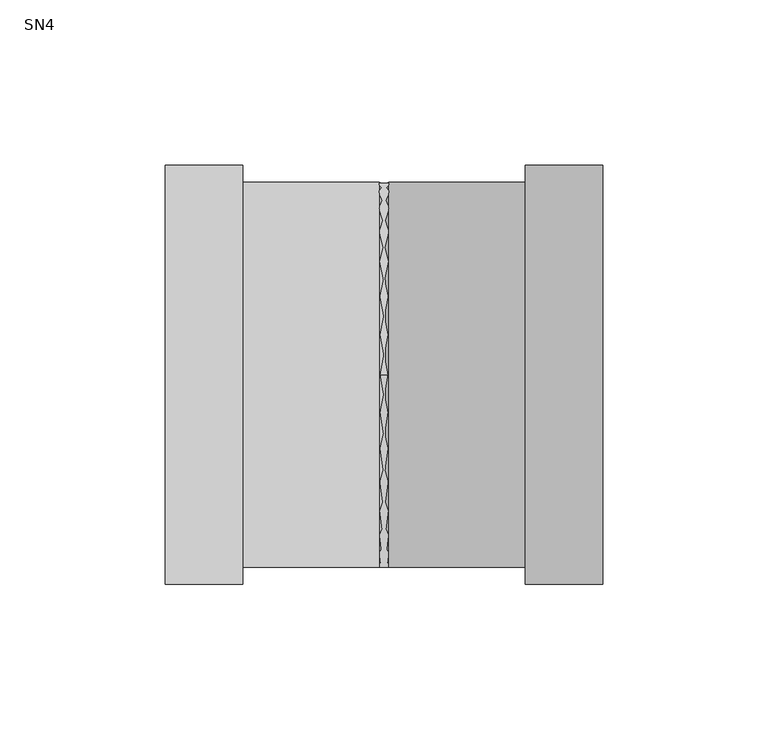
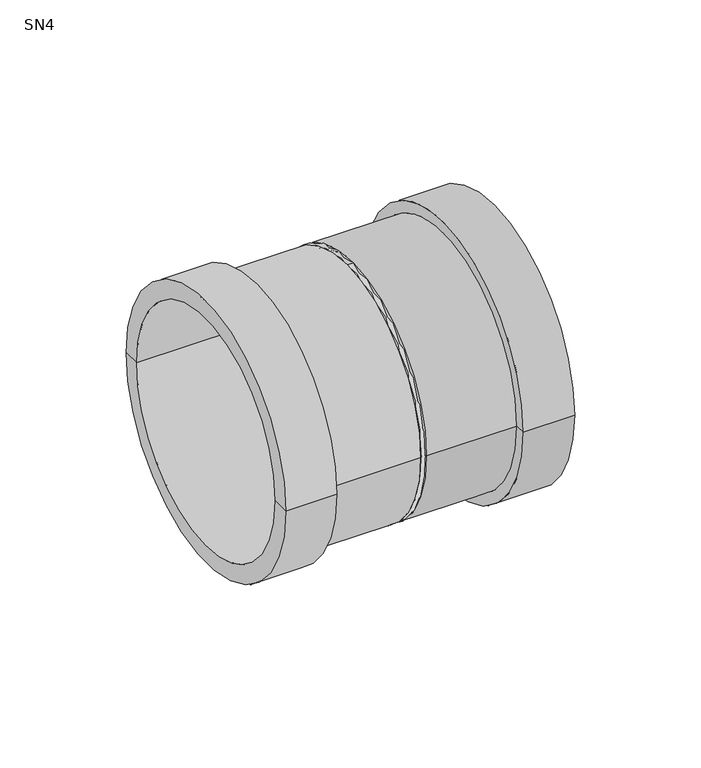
"""IFC4 building model written with IfcOpenShell, lengths in millimetres: pipe fitting geometry, NLRS-90-PIF_Z_DO_NOT_USE_Wavin PVC Buitenriolering Steekmof (Nested) : SN4."""

import ifcopenshell
import ifcopenshell.guid

model = None  # the IFC model being written
_history = None  # IfcOwnerHistory: only IFC2X3 demands one
_inside = {}  # id of a spatial element -> (the spatial element, [elements in it])
_under = {}  # id of a project, library or spatial element -> (it, [spatial elements below it])
_declared = {}  # id of a project -> (the project, [libraries it declares])
_typed = {}  # id of a type object -> (the type object, [elements of that type])
_made_of = {}  # id of a material, layer set ... -> (it, [elements and type objects made of it])


def new_model(schema):
    """Start an empty IFC model of exactly this schema.

    Asked for "IFC4X3", IfcOpenShell would pick the latest addendum, in which some entities
    have other attributes; the version numbers below select the first issue.
    IFC2X3 requires an IfcOwnerHistory on every rooted entity: one is made here for all.
    """
    global model, _history
    if schema == "IFC4X3":
        model = ifcopenshell.file(schema_version=(4, 3, 0, 0))
    else:
        model = ifcopenshell.file(schema=schema)
    _inside.clear()
    _under.clear()
    _declared.clear()
    _typed.clear()
    _made_of.clear()
    _history = None
    if model.schema == "IFC2X3":
        org = make("IfcOrganization", Name="unknown")
        user = make(
            "IfcPersonAndOrganization",
            ThePerson=make("IfcPerson", FamilyName="unknown"),
            TheOrganization=org,
        )
        app = make(
            "IfcApplication",
            ApplicationDeveloper=org,
            Version="unknown",
            ApplicationFullName="unknown",
            ApplicationIdentifier="unknown",
        )
        _history = make(
            "IfcOwnerHistory",
            OwningUser=user,
            OwningApplication=app,
            ChangeAction="ADDED",
            CreationDate=0,
        )
    return model


def make(cls, **values):
    """One entity of the class cls with the attributes given. An attribute that is None is left unset."""
    return model.create_entity(
        cls, **{name: value for name, value in values.items() if value is not None}
    )


def rooted(cls, **values):
    """An entity with a GlobalId (a new one), such as an element, a storey or a relation."""
    return make(cls, GlobalId=ifcopenshell.guid.new(), OwnerHistory=_history, **values)


def si_unit(unit_type, name, prefix=None):
    """IfcSIUnit, for example si_unit("LENGTHUNIT", "METRE", prefix="MILLI")."""
    return make("IfcSIUnit", UnitType=unit_type, Prefix=prefix, Name=name)


def assignment(units):
    """IfcUnitAssignment: the units of a project."""
    return None if units is None else make("IfcUnitAssignment", Units=units)


def point(xyz):
    """IfcCartesianPoint."""
    return None if xyz is None else make("IfcCartesianPoint", Coordinates=xyz)


def direction(xyz):
    """IfcDirection."""
    return None if xyz is None else make("IfcDirection", DirectionRatios=xyz)


def frame(location, z_axis=None, x_axis=None):
    """IfcAxis2Placement3D, a coordinate frame: its origin and axes. An axis left out is left unset."""
    return make(
        "IfcAxis2Placement3D",
        Location=point(location),
        Axis=direction(z_axis),
        RefDirection=direction(x_axis),
    )


def frame_2d(location, x_axis=None):
    """IfcAxis2Placement2D, a coordinate frame in the plane: its origin and x axis."""
    return make(
        "IfcAxis2Placement2D", Location=point(location), RefDirection=direction(x_axis)
    )


def origin():
    """The frame at (0, 0, 0) with its axes left unset."""
    return frame((0.0, 0.0, 0.0))


def origin_2d():
    """The frame at (0, 0) in the plane with its x axis left unset."""
    return frame_2d((0.0, 0.0))


def place(relative_to, where):
    """IfcLocalPlacement: puts the frame where relative to a parent placement (None: the world)."""
    return make(
        "IfcLocalPlacement", PlacementRelTo=relative_to, RelativePlacement=where
    )


def context(
    kind, dimensions, precision=None, world=None, true_north=None, identifier=None
):
    """IfcGeometricRepresentationContext, for example the 3D "Model" context."""
    return make(
        "IfcGeometricRepresentationContext",
        ContextIdentifier=identifier,
        ContextType=kind,
        CoordinateSpaceDimension=dimensions,
        Precision=precision,
        WorldCoordinateSystem=world,
        TrueNorth=true_north,
    )


def project(units=None, contexts=None):
    """IfcProject with its units and contexts."""
    return rooted(
        "IfcProject",
        Name="project",
        RepresentationContexts=contexts,
        UnitsInContext=assignment(units),
    )


def spatial(cls, under=None, at=None, **own):
    """A site, building, storey or space (cls), placed at a placement, below another one or the project."""
    s = rooted(cls, ObjectPlacement=at, **own)
    if under is not None:
        _under.setdefault(under.id(), (under, []))[1].append(s)
    return s


def polyline(points):
    """IfcPolyline through the points."""
    return make("IfcPolyline", Points=[point(p) for p in points])


def circle_curve(where, radius):
    """IfcCircle in the frame where."""
    return make("IfcCircle", Position=where, Radius=radius)


def trimmed(basis, trim1, trim2, sense, master):
    """IfcTrimmedCurve: the piece of a basis curve between two trims."""
    return make(
        "IfcTrimmedCurve",
        BasisCurve=basis,
        Trim1=trim1,
        Trim2=trim2,
        SenseAgreement=sense,
        MasterRepresentation=master,
    )


def segment(curve, same_sense, transition):
    """IfcCompositeCurveSegment."""
    return make(
        "IfcCompositeCurveSegment",
        Transition=transition,
        SameSense=same_sense,
        ParentCurve=curve,
    )


def composite_curve(segments, self_intersect=None):
    """IfcCompositeCurve: segments joined end to end."""
    return make("IfcCompositeCurve", Segments=segments, SelfIntersect=self_intersect)


def outline(outer, holes=None, kind="AREA"):
    """IfcArbitraryClosedProfileDef: a profile drawn as a closed curve; with holes, ...WithVoids."""
    if holes is None:
        return make("IfcArbitraryClosedProfileDef", ProfileType=kind, OuterCurve=outer)
    return make(
        "IfcArbitraryProfileDefWithVoids",
        ProfileType=kind,
        OuterCurve=outer,
        InnerCurves=holes,
    )


def extrude(swept, where, along, depth):
    """IfcExtrudedAreaSolid: the profile swept, set in the frame where, extruded along a direction by depth."""
    return make(
        "IfcExtrudedAreaSolid",
        SweptArea=swept,
        Position=where,
        ExtrudedDirection=direction(along),
        Depth=depth,
    )


def shape(context_of_items, identifier, shape_type, items):
    """IfcShapeRepresentation: the items that make up one representation, for example the "Body"."""
    return make(
        "IfcShapeRepresentation",
        ContextOfItems=context_of_items,
        RepresentationIdentifier=identifier,
        RepresentationType=shape_type,
        Items=items,
    )


def source(mapping_origin, context_of_items, identifier, shape_type, items):
    """IfcRepresentationMap: a shape defined once, which mapped items show again and again."""
    return make(
        "IfcRepresentationMap",
        MappingOrigin=mapping_origin,
        MappedRepresentation=shape(context_of_items, identifier, shape_type, items),
    )


def transform(
    local_origin,
    x_axis=None,
    y_axis=None,
    z_axis=None,
    scale=None,
    scale2=None,
    scale3=None,
    uniform=True,
):
    """IfcCartesianTransformationOperator3D, or its non-uniform kind. x_axis, y_axis, z_axis: its Axis1, 2, 3."""
    if uniform:
        return make(
            "IfcCartesianTransformationOperator3D",
            Axis1=direction(x_axis),
            Axis2=direction(y_axis),
            LocalOrigin=point(local_origin),
            Scale=scale,
            Axis3=direction(z_axis),
        )
    return make(
        "IfcCartesianTransformationOperator3DnonUniform",
        Axis1=direction(x_axis),
        Axis2=direction(y_axis),
        LocalOrigin=point(local_origin),
        Scale=scale,
        Axis3=direction(z_axis),
        Scale2=scale2,
        Scale3=scale3,
    )


def mapped(mapping_source, mapping_target):
    """IfcMappedItem: shows the shape of a source again, moved by a transform."""
    return make(
        "IfcMappedItem", MappingSource=mapping_source, MappingTarget=mapping_target
    )


def made_of(thing, what):
    """Note that an element or type object is made of a material, layer set ...; save() writes the relation."""
    if what is not None:
        _made_of.setdefault(what.id(), (what, []))[1].append(thing)
    return thing


def element(
    cls,
    number,
    at=None,
    inside=None,
    cuts=None,
    type_object=None,
    material=None,
    context=None,
    identifier="Body",
    shape_type=None,
    held_by="IfcProductDefinitionShape",
    body=None,
    shapes=None,
    **own,
):
    """One element of the class cls, such as IfcWall. Its Tag is "e" and its number.

    at: its placement. inside: the storey or other place that contains it. cuts: it is an
    opening in that element (IfcRelVoidsElement). A single representation is given by context,
    identifier, shape_type and body (its items); several are given by shapes. held_by: the class
    of the entity that holds the representations. save() writes the other relations.
    """
    e = rooted(cls, Tag="e%d" % number, ObjectPlacement=at, **own)
    if body is not None:
        shapes = [shape(context, identifier, shape_type, body)]
    if shapes is not None:
        e.Representation = make(held_by, Representations=shapes)
    if inside is not None:
        _inside.setdefault(inside.id(), (inside, []))[1].append(e)
    if cuts is not None:
        rooted(
            "IfcRelVoidsElement", RelatingBuildingElement=cuts, RelatedOpeningElement=e
        )
    if type_object is not None:
        _typed.setdefault(type_object.id(), (type_object, []))[1].append(e)
    return made_of(e, material)


def aggregate(whole, parts):
    """IfcRelAggregates: a whole, such as a stair, and the parts it consists of."""
    return rooted("IfcRelAggregates", RelatingObject=whole, RelatedObjects=parts)


def save(model, path):
    """Write the relations noted so far, then the file.

    IfcRelAggregates (storeys below a building ...), IfcRelContainedInSpatialStructure (elements
    in a storey), IfcRelDefinesByType, IfcRelAssociatesMaterial and IfcRelDeclares: one each for
    every whole, place, type object, material and project.
    """
    for whole, parts in _under.values():
        aggregate(whole, parts)
    for where, things in _inside.values():
        rooted(
            "IfcRelContainedInSpatialStructure",
            RelatedElements=things,
            RelatingStructure=where,
        )
    for kind, things in _typed.values():
        rooted("IfcRelDefinesByType", RelatedObjects=things, RelatingType=kind)
    for what, things in _made_of.values():
        rooted("IfcRelAssociatesMaterial", RelatedObjects=things, RelatingMaterial=what)
    for by, libraries in _declared.values():
        rooted("IfcRelDeclares", RelatingContext=by, RelatedDefinitions=libraries)
    model.write(path)


def plane_surface(at):
    """IfcPlane: the flat surface through the origin of the frame at, square to its z axis."""
    return make("IfcPlane", Position=at)


def cylinder_surface(at, radius):
    """IfcCylindricalSurface: all points at the distance radius from the z axis of the frame at."""
    return make("IfcCylindricalSurface", Position=at, Radius=radius)


def revolved_surface(curve, axis_point, axis_direction):
    """IfcSurfaceOfRevolution: the curve turned about the line through axis_point along axis_direction."""
    return make(
        "IfcSurfaceOfRevolution",
        SweptCurve=make("IfcArbitraryOpenProfileDef", ProfileType="CURVE", Curve=curve),
        AxisPosition=make("IfcAxis1Placement", Location=point(axis_point), Axis=direction(axis_direction)),
    )


def advanced_brep(points, edges, surfaces, faces):
    """IfcAdvancedBrep: a solid bounded by faces that lie on surfaces and meet in shared edges.

    An edge is (start, end): straight between two places in points (the first is 0);
    or (start, end, curve); or (start, end, curve, False) where it runs against its curve.
    A face is (place in surfaces, loops), or (place, loops, False) where it looks against
    its surface's normal. A loop lists edges by number (the first is 1), with a minus sign
    where the edge is run from its end to its start. The first loop is the outer one.
    """
    corners = [point(p) for p in points]
    vertices = [make("IfcVertexPoint", VertexGeometry=c) for c in corners]
    made = []
    for start, end, *more in edges:
        made.append(
            make(
                "IfcEdgeCurve",
                EdgeStart=vertices[start],
                EdgeEnd=vertices[end],
                EdgeGeometry=more[0] if more else make("IfcPolyline", Points=[corners[start], corners[end]]),
                SameSense=more[1] if len(more) > 1 else True,
            )
        )
    hull = []
    for where, loops, *sense in faces:
        bounds = []
        for j, loop in enumerate(loops):
            ring = [make("IfcOrientedEdge", EdgeElement=made[abs(k) - 1], Orientation=k > 0) for k in loop]
            bounds.append(
                make(
                    "IfcFaceOuterBound" if j == 0 else "IfcFaceBound",
                    Bound=make("IfcEdgeLoop", EdgeList=ring),
                    Orientation=True,
                )
            )
        hull.append(make("IfcAdvancedFace", Bounds=bounds, FaceSurface=surfaces[where], SameSense=sense[0] if sense else True))
    return make("IfcAdvancedBrep", Outer=make("IfcClosedShell", CfsFaces=hull))


def sn4_5ca09614(model_context):
    return source(origin(), model_context, "Body", "SolidModel", [
        advanced_brep(
        [(-66.1, 55.0, 0.0), (-66.1, -55.0, 0.0), (4.0425626, -55.0, 0.0), (4.0425626, 55.0, 0.0), (-66.1, 63.3, 0.0), (-66.1, -63.3, 0.0), (-42.7, 63.3, 0.0), (-42.7, -63.3, 0.0), (-42.7, 58.2, 0.0), (-42.7, -58.2, 0.0), (-1.5, 58.2, 0.0), (-1.5, -58.2, 0.0)],
        [
            (0, 1, circle_curve(frame((-66.1, 0.0, 0.0), z_axis=(-1.0, 0.0, 0.0), x_axis=(0.0, -1.0, 0.0)), 55.0)),
            (1, 2),
            (2, 3, circle_curve(frame((4.0425626, 0.0, 0.0), z_axis=(1.0, 0.0, 0.0), x_axis=(0.0, -1.0, 0.0)), 55.0)),
            (3, 0),
            (1, 0, circle_curve(frame((-66.1, 0.0, 0.0), z_axis=(-1.0, 0.0, 0.0), x_axis=(0.0, -1.0, 0.0)), 55.0)),
            (3, 2, circle_curve(frame((4.0425626, 0.0, 0.0), z_axis=(1.0, 0.0, 0.0), x_axis=(0.0, -1.0, 0.0)), 55.0)),
            (4, 5, circle_curve(frame((-66.1, 0.0, 0.0), z_axis=(-1.0, 0.0, 0.0), x_axis=(0.0, -1.0, 0.0)), 63.3)),
            (5, 1),
            (0, 4),
            (5, 4, circle_curve(frame((-66.1, 0.0, 0.0), z_axis=(-1.0, 0.0, 0.0), x_axis=(0.0, -1.0, 0.0)), 63.3)),
            (6, 7, circle_curve(frame((-42.7, 0.0, 0.0), z_axis=(-1.0, 0.0, 0.0), x_axis=(0.0, -1.0, 0.0)), 63.3)),
            (7, 5),
            (4, 6),
            (7, 6, circle_curve(frame((-42.7, 0.0, 0.0), z_axis=(-1.0, 0.0, 0.0), x_axis=(0.0, -1.0, 0.0)), 63.3)),
            (8, 9, circle_curve(frame((-42.7, 0.0, 0.0), z_axis=(-1.0, 0.0, 0.0), x_axis=(0.0, -1.0, 0.0)), 58.2)),
            (9, 7),
            (6, 8),
            (9, 8, circle_curve(frame((-42.7, 0.0, 0.0), z_axis=(-1.0, 0.0, 0.0), x_axis=(0.0, -1.0, 0.0)), 58.2)),
            (10, 11, circle_curve(frame((-1.5, 0.0, 0.0), z_axis=(-1.0, 0.0, 0.0), x_axis=(0.0, -1.0, 0.0)), 58.2)),
            (11, 9),
            (8, 10),
            (11, 10, circle_curve(frame((-1.5, 0.0, 0.0), z_axis=(-1.0, 0.0, 0.0), x_axis=(0.0, -1.0, 0.0)), 58.2)),
            (2, 11),
            (10, 3),
        ],
        [
            revolved_surface(polyline([(4.042562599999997, -55.0, 0.0), (-66.09999999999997, -55.0, 0.0)]), (477.4400222, 0.0, 0.0), (1.0, 0.0, 0.0)),
            plane_surface(frame((-66.1, 0.0, 0.0), z_axis=(-1.0, 0.0, 0.0), x_axis=(0.0, -1.0, 0.0))),
            cylinder_surface(frame((477.4400222, 0.0, 0.0), z_axis=(1.0, 0.0, 0.0), x_axis=(0.0, -1.0, 0.0)), 63.3),
            plane_surface(frame((-42.7, 0.0, 0.0), z_axis=(1.0, 0.0, 0.0), x_axis=(0.0, -1.0, 0.0))),
            cylinder_surface(frame((477.4400222, 0.0, 0.0), z_axis=(1.0, 0.0, 0.0), x_axis=(0.0, -1.0, 0.0)), 58.2),
            revolved_surface(polyline([(-1.5, -58.2, 0.0), (4.0425626, -55.0, 0.0)]), (477.4400222, 0.0, 0.0), (1.0, 0.0, 0.0)),
        ],
        [
            (0, [[1, 2, 3, 4]]),
            (0, [[5, -4, 6, -2]]),
            (1, [[7, 8, -1, 9]]),
            (1, [[10, -9, -5, -8]]),
            (2, [[11, 12, -7, 13]]),
            (2, [[14, -13, -10, -12]]),
            (3, [[15, 16, -11, 17]]),
            (3, [[18, -17, -14, -16]]),
            (4, [[19, 20, -15, 21]]),
            (4, [[22, -21, -18, -20]]),
            (5, [[-3, 23, -19, 24]]),
            (5, [[-6, -24, -22, -23]]),
        ],
    ),
        advanced_brep(
        [(66.1, -55.0, 0.0), (66.1, 55.0, 0.0), (-4.0425626, 55.0, 0.0), (-4.0425626, -55.0, 0.0), (66.1, -63.3, 0.0), (66.1, 63.3, 0.0), (42.7, -63.3, 0.0), (42.7, 63.3, 0.0), (42.7, -58.2, 0.0), (42.7, 58.2, 0.0), (1.5, -58.2, 0.0), (1.5, 58.2, 0.0)],
        [
            (0, 1, circle_curve(frame((66.1, 0.0, 0.0), z_axis=(1.0, 0.0, 0.0), x_axis=(0.0, 1.0, 0.0)), 55.0)),
            (1, 2),
            (2, 3, circle_curve(frame((-4.0425626, 0.0, 0.0), z_axis=(-1.0, 0.0, 0.0), x_axis=(0.0, 1.0, 0.0)), 55.0)),
            (3, 0),
            (1, 0, circle_curve(frame((66.1, 0.0, 0.0), z_axis=(1.0, 0.0, 0.0), x_axis=(0.0, 1.0, 0.0)), 55.0)),
            (3, 2, circle_curve(frame((-4.0425626, 0.0, 0.0), z_axis=(-1.0, 0.0, 0.0), x_axis=(0.0, 1.0, 0.0)), 55.0)),
            (4, 5, circle_curve(frame((66.1, 0.0, 0.0), z_axis=(1.0, 0.0, 0.0), x_axis=(0.0, 1.0, 0.0)), 63.3)),
            (5, 1),
            (0, 4),
            (5, 4, circle_curve(frame((66.1, 0.0, 0.0), z_axis=(1.0, 0.0, 0.0), x_axis=(0.0, 1.0, 0.0)), 63.3)),
            (6, 7, circle_curve(frame((42.7, 0.0, 0.0), z_axis=(1.0, 0.0, 0.0), x_axis=(0.0, 1.0, 0.0)), 63.3)),
            (7, 5),
            (4, 6),
            (7, 6, circle_curve(frame((42.7, 0.0, 0.0), z_axis=(1.0, 0.0, 0.0), x_axis=(0.0, 1.0, 0.0)), 63.3)),
            (8, 9, circle_curve(frame((42.7, 0.0, 0.0), z_axis=(1.0, 0.0, 0.0), x_axis=(0.0, 1.0, 0.0)), 58.2)),
            (9, 7),
            (6, 8),
            (9, 8, circle_curve(frame((42.7, 0.0, 0.0), z_axis=(1.0, 0.0, 0.0), x_axis=(0.0, 1.0, 0.0)), 58.2)),
            (10, 11, circle_curve(frame((1.5, 0.0, 0.0), z_axis=(1.0, 0.0, 0.0), x_axis=(0.0, 1.0, 0.0)), 58.2)),
            (11, 9),
            (8, 10),
            (11, 10, circle_curve(frame((1.5, 0.0, 0.0), z_axis=(1.0, 0.0, 0.0), x_axis=(0.0, 1.0, 0.0)), 58.2)),
            (2, 11),
            (10, 3),
        ],
        [
            revolved_surface(polyline([(-4.042562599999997, 55.0, 0.0), (66.09999999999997, 55.0, 0.0)]), (-477.4400222, 0.0, 0.0), (-1.0, 0.0, 0.0)),
            plane_surface(frame((66.1, 0.0, 0.0), z_axis=(1.0, 0.0, 0.0), x_axis=(0.0, 1.0, 0.0))),
            cylinder_surface(frame((-477.4400222, 0.0, 0.0), z_axis=(-1.0, 0.0, 0.0), x_axis=(0.0, 1.0, 0.0)), 63.3),
            plane_surface(frame((42.7, 0.0, 0.0), z_axis=(-1.0, 0.0, 0.0), x_axis=(0.0, 1.0, 0.0))),
            cylinder_surface(frame((-477.4400222, 0.0, 0.0), z_axis=(-1.0, 0.0, 0.0), x_axis=(0.0, 1.0, 0.0)), 58.2),
            revolved_surface(polyline([(1.5, 58.2, 0.0), (-4.0425626, 55.0, 0.0)]), (-477.4400222, 0.0, 0.0), (-1.0, 0.0, 0.0)),
        ],
        [
            (0, [[1, 2, 3, 4]]),
            (0, [[5, -4, 6, -2]]),
            (1, [[7, 8, -1, 9]]),
            (1, [[10, -9, -5, -8]]),
            (2, [[11, 12, -7, 13]]),
            (2, [[14, -13, -10, -12]]),
            (3, [[15, 16, -11, 17]]),
            (3, [[18, -17, -14, -16]]),
            (4, [[19, 20, -15, 21]]),
            (4, [[22, -21, -18, -20]]),
            (5, [[-3, 23, -19, 24]]),
            (5, [[-6, -24, -22, -23]]),
        ],
    ),
        extrude(outline(composite_curve([segment(trimmed(circle_curve(origin_2d(), 58.2), [point((0.0, -58.2))], [point((0.0, 58.2))], False, "CARTESIAN"), True, "CONTINUOUS"), segment(trimmed(circle_curve(origin_2d(), 58.2), [point((0.0, 58.2))], [point((0.0, -58.2))], False, "CARTESIAN"), True, "CONTINUOUS")], self_intersect=False)), frame((-1.5, 0.0, 0.0), z_axis=(1.0, 0.0, 0.0), x_axis=(0.0, 1.0, 0.0)), (0.0, 0.0, 1.0), 3.0),
    ])


if __name__ == "__main__":
    model = new_model("IFC4")
    model_context = context("Model", 3, world=origin())
    ifc_project = project(units=[si_unit("LENGTHUNIT", "METRE", prefix="MILLI")], contexts=[model_context])
    site = spatial("IfcSite", under=ifc_project)
    building = spatial("IfcBuilding", under=site)
    placement = place(None, origin())
    sn4_shape = sn4_5ca09614(model_context)
    element("IfcPipeFitting", 1, ObjectType="NLRS-90-PIF_Z_DO_NOT_USE_Wavin PVC Buitenriolering Steekmof (Nested) : SN4", at=placement, inside=building, context=model_context, shape_type="MappedRepresentation", body=[
        mapped(sn4_shape, transform((0.0, 0.0, 0.0), x_axis=(1.0, 0.0, 0.0), y_axis=(0.0, 1.0, 0.0), z_axis=(0.0, 0.0, 1.0))),
    ])
    save(model, "model.ifc")
